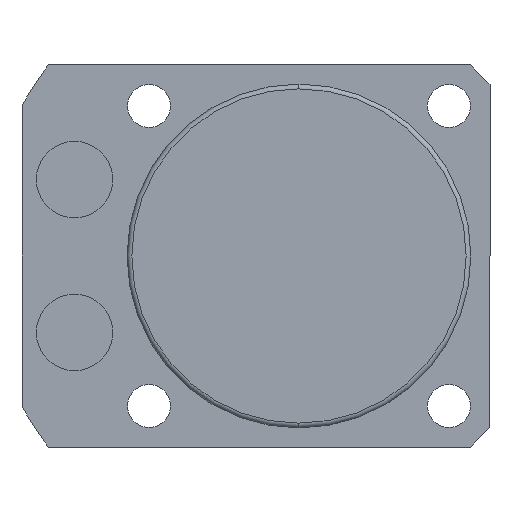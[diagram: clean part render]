
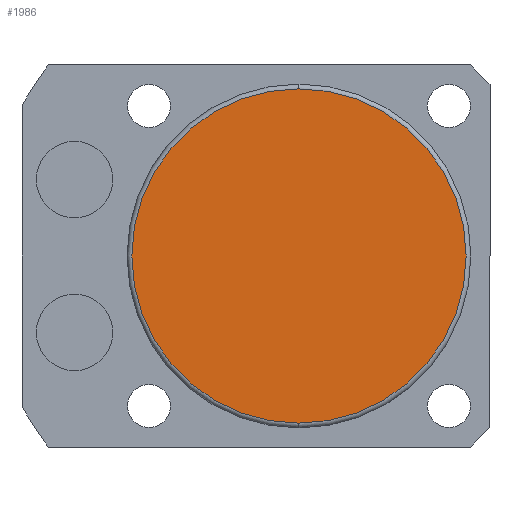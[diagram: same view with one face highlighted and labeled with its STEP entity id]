
A CAD part, front view. The second image highlights one B-rep face of the part: STEP entity #1986.
In plain terms, the highlighted planar face has unit normal (0, -1, 0).
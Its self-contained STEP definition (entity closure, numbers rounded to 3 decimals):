
#67 = DIRECTION ( 'NONE',  ( 0., 0., -1. ) ) ;
#266 = EDGE_CURVE ( 'NONE', #1003, #350, #1926, .T. ) ;
#298 = DIRECTION ( 'NONE',  ( 0., -1., 0. ) ) ;
#350 = VERTEX_POINT ( 'NONE', #1718 ) ;
#423 = EDGE_LOOP ( 'NONE', ( #1488, #1462 ) ) ;
#513 = DIRECTION ( 'NONE',  ( 0., 0., -1. ) ) ;
#631 = AXIS2_PLACEMENT_3D ( 'NONE', #1202, #1423, #67 ) ;
#790 = CARTESIAN_POINT ( 'NONE',  ( 0., -110.5, -17.5 ) ) ;
#1003 = VERTEX_POINT ( 'NONE', #790 ) ;
#1062 = AXIS2_PLACEMENT_3D ( 'NONE', #1063, #298, #513 ) ;
#1063 = CARTESIAN_POINT ( 'NONE',  ( 0., -110.5, 0. ) ) ;
#1202 = CARTESIAN_POINT ( 'NONE',  ( 0., -110.5, 0. ) ) ;
#1349 = CIRCLE ( 'NONE', #1062, 17.5 ) ;
#1390 = PLANE ( 'NONE',  #631 ) ;
#1423 = DIRECTION ( 'NONE',  ( 0., -1., 0. ) ) ;
#1455 = AXIS2_PLACEMENT_3D ( 'NONE', #2431, #2231, #2052 ) ;
#1462 = ORIENTED_EDGE ( 'NONE', *, *, #1864, .T. ) ;
#1480 = FACE_OUTER_BOUND ( 'NONE', #423, .T. ) ;
#1488 = ORIENTED_EDGE ( 'NONE', *, *, #266, .T. ) ;
#1718 = CARTESIAN_POINT ( 'NONE',  ( 0., -110.5, 17.5 ) ) ;
#1864 = EDGE_CURVE ( 'NONE', #350, #1003, #1349, .T. ) ;
#1926 = CIRCLE ( 'NONE', #1455, 17.5 ) ;
#1986 = ADVANCED_FACE ( 'NONE', ( #1480 ), #1390, .T. ) ;
#2052 = DIRECTION ( 'NONE',  ( 0., 0., -1. ) ) ;
#2231 = DIRECTION ( 'NONE',  ( 0., -1., 0. ) ) ;
#2431 = CARTESIAN_POINT ( 'NONE',  ( 0., -110.5, 0. ) ) ;
